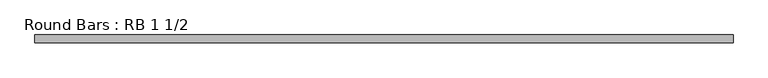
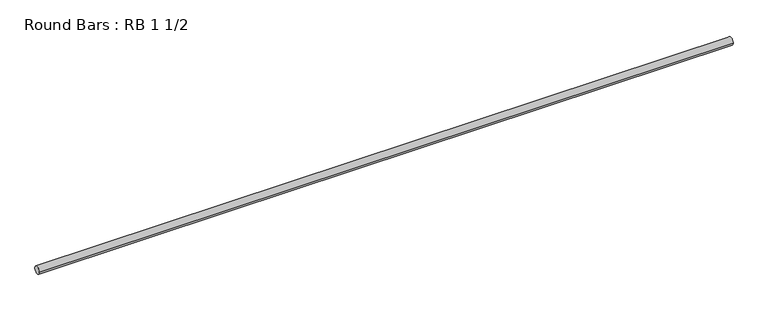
"""IFC4 building model written with IfcOpenShell, lengths in millimetres: member geometry, Round Bars : RB 1 1/2."""

from ifc_helpers import new_model, si_unit, point, frame, origin, origin_2d, place, context, project, spatial, circle_curve, trimmed, segment, composite_curve, outline, extrude, source, transform, mapped, element, save


def round_bars_rb_1_1_2_8f09dae0(model_context):
    return source(origin(), model_context, "Body", "SweptSolid", [
        extrude(outline(composite_curve([segment(trimmed(circle_curve(origin_2d(), 19.05), [point((19.05, 0.0))], [point((-19.05, 0.0))], False, "CARTESIAN"), True, "CONTINUOUS"), segment(trimmed(circle_curve(origin_2d(), 19.05), [point((-19.05, 0.0))], [point((19.05, 0.0))], False, "CARTESIAN"), True, "CONTINUOUS")], self_intersect=False)), frame((-1805.9635932, 0.0, 0.0), z_axis=(1.0, 0.0, 0.0), x_axis=(0.0, 1.0, 0.0)), (0.0, 0.0, 1.0), 3400.1227968),
    ])


if __name__ == "__main__":
    model = new_model("IFC4")
    model_context = context("Model", 3, world=origin())
    ifc_project = project(units=[si_unit("LENGTHUNIT", "METRE", prefix="MILLI")], contexts=[model_context])
    site = spatial("IfcSite", under=ifc_project)
    building = spatial("IfcBuilding", under=site)
    placement = place(None, origin())
    round_bars_rb_1_1_2_shape = round_bars_rb_1_1_2_8f09dae0(model_context)
    element("IfcMember", 1, ObjectType="Round Bars : RB 1 1/2", at=placement, inside=building, context=model_context, shape_type="MappedRepresentation", body=[
        mapped(round_bars_rb_1_1_2_shape, transform((0.0, 0.0, 0.0), x_axis=(1.0, 0.0, 0.0), y_axis=(0.0, 1.0, 0.0), z_axis=(0.0, 0.0, 1.0))),
    ])
    save(model, "model.ifc")
